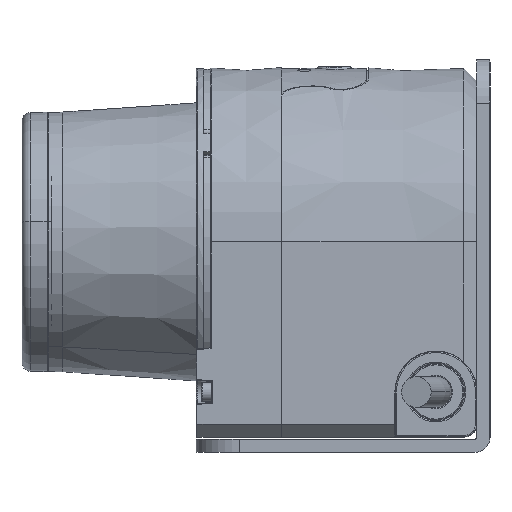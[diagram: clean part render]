
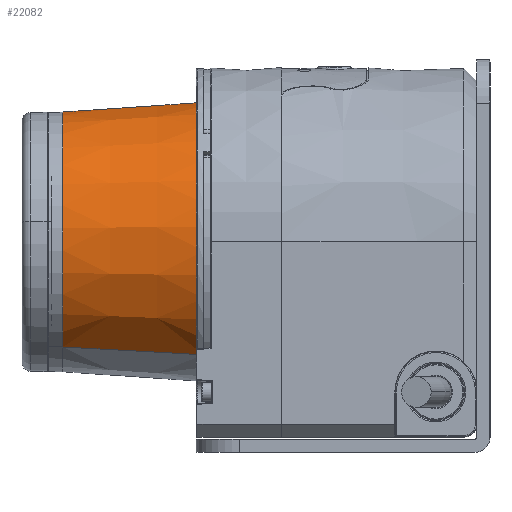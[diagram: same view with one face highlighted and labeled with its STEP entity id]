
A CAD part, left-side view. The second image highlights one B-rep face of the part: STEP entity #22082.
In plain terms, the highlighted conical face has half-angle 3.945 degrees and reference radius 31.12 mm.
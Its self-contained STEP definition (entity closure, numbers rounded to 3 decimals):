
#16670=CARTESIAN_POINT('',(0.,1.653,0.));
#16671=DIRECTION('',(0.,1.,0.));
#16672=DIRECTION('',(0.,0.,-1.));
#16673=AXIS2_PLACEMENT_3D('',#16670,#16671,#16672);
#16744=DIRECTION('',(0.,0.998,0.069));
#16745=VECTOR('',#16744,32.561);
#16746=CARTESIAN_POINT('',(0.,1.653,-32.24));
#16747=LINE('',#16746,#16745);
#16748=DIRECTION('',(0.,0.998,-0.069));
#16749=VECTOR('',#16748,32.561);
#16750=CARTESIAN_POINT('',(0.,1.653,32.24));
#16751=LINE('',#16750,#16749);
#16761=CARTESIAN_POINT('',(0.,34.137,0.));
#16762=DIRECTION('',(0.,-1.,0.));
#16763=DIRECTION('',(0.,0.,1.));
#16764=AXIS2_PLACEMENT_3D('',#16761,#16762,#16763);
#20522=CARTESIAN_POINT('',(0.,1.653,-32.24));
#20523=CARTESIAN_POINT('',(0.,1.653,
32.24));
#20524=VERTEX_POINT('',#20522);
#20525=VERTEX_POINT('',#20523);
#20528=CARTESIAN_POINT('',(0.,34.137,30.));
#20529=VERTEX_POINT('',#20528);
#20530=CARTESIAN_POINT('',(0.,34.137,-30.));
#20531=VERTEX_POINT('',#20530);
#22068=CARTESIAN_POINT('',(0.,17.895,0.));
#22069=DIRECTION('',(0.,-1.,0.));
#22070=DIRECTION('',(0.,0.,-1.));
#22071=AXIS2_PLACEMENT_3D('',#22068,#22069,#22070);
#22072=CONICAL_SURFACE('',#22071,31.12,3.945);
#22074=ORIENTED_EDGE('',*,*,#22073,.F.);
#22075=ORIENTED_EDGE('',*,*,#21864,.F.);
#22077=ORIENTED_EDGE('',*,*,#22076,.T.);
#22079=ORIENTED_EDGE('',*,*,#22078,.F.);
#22080=EDGE_LOOP('',(#22074,#22075,#22077,#22079));
#22081=FACE_OUTER_BOUND('',#22080,.F.);
#22082=ADVANCED_FACE('',(#22081),#22072,.T.);
#16674=CIRCLE('',#16673,32.24);
#16765=CIRCLE('',#16764,30.);
#21864=EDGE_CURVE('',#20524,#20525,#16674,.T.);
#22073=EDGE_CURVE('',#20525,#20529,#16751,.T.);
#22076=EDGE_CURVE('',#20524,#20531,#16747,.T.);
#22078=EDGE_CURVE('',#20529,#20531,#16765,.T.);
